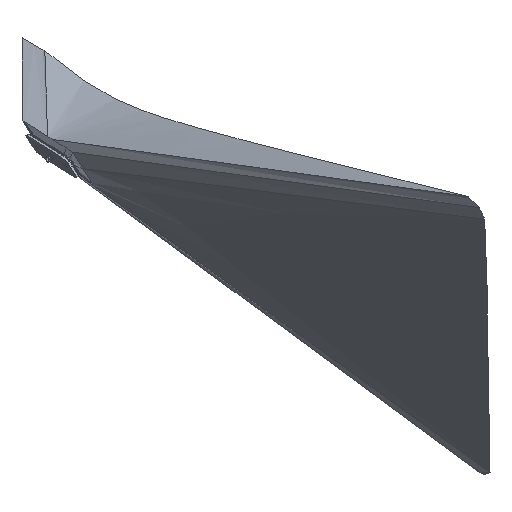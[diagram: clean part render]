
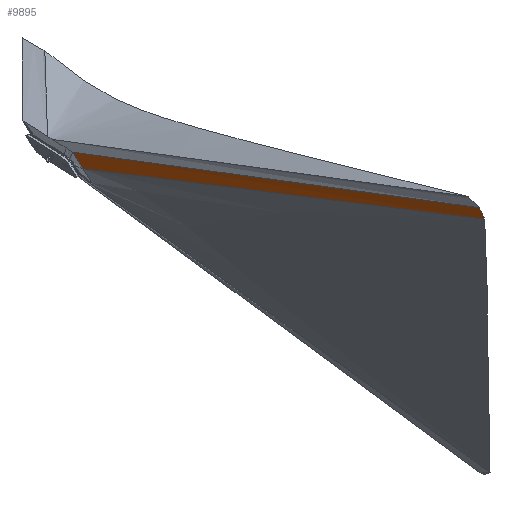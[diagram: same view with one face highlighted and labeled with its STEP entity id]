
A CAD part, isometric view. The second image highlights one B-rep face of the part: STEP entity #9895.
In plain terms, the highlighted free-form (B-spline) face has degree [5, 1] with [9, 2] control points.
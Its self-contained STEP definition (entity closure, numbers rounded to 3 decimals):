
#49=CARTESIAN_POINT('Vertex',(25.,-59.31,31.861)) ;
#133=CARTESIAN_POINT('Control Point',(25.,-59.31,31.861)) ;
#134=CARTESIAN_POINT('Control Point',(224.,-1450.585,439.828)) ;
#135=CARTESIAN_POINT('Vertex',(224.,-1450.585,439.828)) ;
#9077=CARTESIAN_POINT('Control Point',(25.,-98.787,-4.313)) ;
#9078=CARTESIAN_POINT('Control Point',(224.,-1471.471,411.236)) ;
#9079=CARTESIAN_POINT('Vertex',(25.,-98.787,-4.313)) ;
#9081=CARTESIAN_POINT('Vertex',(224.,-1471.471,411.236)) ;
#9834=CARTESIAN_POINT('Control Point',(25.,-59.31,31.861)) ;
#9835=CARTESIAN_POINT('Control Point',(445.798,-3001.249,894.533)) ;
#9836=CARTESIAN_POINT('Control Point',(25.,-63.537,27.987)) ;
#9837=CARTESIAN_POINT('Control Point',(445.883,-3001.85,892.477)) ;
#9838=CARTESIAN_POINT('Control Point',(25.,-67.765,24.113)) ;
#9839=CARTESIAN_POINT('Control Point',(445.967,-3002.45,890.42)) ;
#9840=CARTESIAN_POINT('Control Point',(25.,-71.924,20.303)) ;
#9841=CARTESIAN_POINT('Control Point',(446.035,-3002.933,888.754)) ;
#9842=CARTESIAN_POINT('Control Point',(25.,-80.81,12.16)) ;
#9843=CARTESIAN_POINT('Control Point',(446.159,-3003.818,885.7)) ;
#9844=CARTESIAN_POINT('Control Point',(25.,-89.043,4.615)) ;
#9845=CARTESIAN_POINT('Control Point',(446.266,-3004.578,883.067)) ;
#9846=CARTESIAN_POINT('Control Point',(25.,-92.541,1.41)) ;
#9847=CARTESIAN_POINT('Control Point',(446.309,-3004.882,882.003)) ;
#9848=CARTESIAN_POINT('Control Point',(25.,-95.897,-1.665)) ;
#9849=CARTESIAN_POINT('Control Point',(446.385,-3005.423,880.137)) ;
#9850=CARTESIAN_POINT('Control Point',(25.,-98.787,-4.313)) ;
#9851=CARTESIAN_POINT('Control Point',(446.552,-3006.615,875.966)) ;
#9853=CARTESIAN_POINT('Control Point',(25.,-59.31,31.861)) ;
#9854=CARTESIAN_POINT('Control Point',(25.,-63.537,27.987)) ;
#9855=CARTESIAN_POINT('Control Point',(25.,-67.765,24.113)) ;
#9856=CARTESIAN_POINT('Control Point',(25.,-71.924,20.303)) ;
#9857=CARTESIAN_POINT('Control Point',(25.,-80.81,12.16)) ;
#9858=CARTESIAN_POINT('Control Point',(25.,-89.043,4.615)) ;
#9859=CARTESIAN_POINT('Control Point',(25.,-92.541,1.41)) ;
#9860=CARTESIAN_POINT('Control Point',(25.,-95.897,-1.665)) ;
#9861=CARTESIAN_POINT('Control Point',(25.,-98.787,-4.313)) ;
#9864=CARTESIAN_POINT('Control Point',(224.,-1471.471,411.236)) ;
#9865=CARTESIAN_POINT('Control Point',(224.,-1470.65,413.114)) ;
#9866=CARTESIAN_POINT('Control Point',(224.,-1469.72,414.821)) ;
#9867=CARTESIAN_POINT('Control Point',(224.,-1468.705,416.36)) ;
#9868=CARTESIAN_POINT('Control Point',(224.,-1467.246,418.346)) ;
#9869=CARTESIAN_POINT('Control Point',(224.,-1465.694,420.308)) ;
#9870=CARTESIAN_POINT('Control Point',(224.,-1465.282,420.822)) ;
#9871=CARTESIAN_POINT('Control Point',(224.,-1464.443,421.863)) ;
#9872=CARTESIAN_POINT('Control Point',(224.,-1463.586,422.918)) ;
#9873=CARTESIAN_POINT('Control Point',(224.,-1463.15,423.455)) ;
#9874=CARTESIAN_POINT('Control Point',(224.,-1462.487,424.271)) ;
#9875=CARTESIAN_POINT('Control Point',(224.,-1461.82,425.096)) ;
#9876=CARTESIAN_POINT('Control Point',(224.,-1461.593,425.377)) ;
#9877=CARTESIAN_POINT('Control Point',(224.,-1460.568,426.646)) ;
#9878=CARTESIAN_POINT('Control Point',(224.,-1459.541,427.927)) ;
#9879=CARTESIAN_POINT('Control Point',(224.,-1458.746,428.929)) ;
#9880=CARTESIAN_POINT('Control Point',(224.,-1457.17,430.937)) ;
#9881=CARTESIAN_POINT('Control Point',(224.,-1455.621,432.963)) ;
#9882=CARTESIAN_POINT('Control Point',(224.,-1454.854,433.983)) ;
#9883=CARTESIAN_POINT('Control Point',(224.,-1453.537,435.757)) ;
#9884=CARTESIAN_POINT('Control Point',(224.,-1452.229,437.551)) ;
#9885=CARTESIAN_POINT('Control Point',(224.,-1451.681,438.309)) ;
#9886=CARTESIAN_POINT('Control Point',(224.,-1451.133,439.068)) ;
#9887=CARTESIAN_POINT('Control Point',(224.,-1450.585,439.828)) ;
#9890=ORIENTED_EDGE('',*,*,#137,.F.) ;
#9891=ORIENTED_EDGE('',*,*,#9862,.T.) ;
#9892=ORIENTED_EDGE('',*,*,#9083,.T.) ;
#9893=ORIENTED_EDGE('',*,*,#9888,.T.) ;
#9895=ADVANCED_FACE('Surface.2',(#9894),#9833,.T.) ;
#132=B_SPLINE_CURVE_WITH_KNOTS('',1,(#133,#134),.UNSPECIFIED.,.F.,.U.,(2,2),(0.,1485.925),.UNSPECIFIED.) ;
#9076=B_SPLINE_CURVE_WITH_KNOTS('',1,(#9077,#9078),.UNSPECIFIED.,.F.,.U.,(2,2),(0.,1483.267),.UNSPECIFIED.) ;
#9852=B_SPLINE_CURVE_WITH_KNOTS('',5,(#9853,#9854,#9855,#9856,#9857,#9858,#9859,#9860,#9861),.UNSPECIFIED.,.F.,.U.,(6,3,6),(0.,21.642,42.324),.UNSPECIFIED.) ;
#9863=B_SPLINE_CURVE_WITH_KNOTS('',5,(#9864,#9865,#9866,#9867,#9868,#9869,#9870,#9871,#9872,#9873,#9874,#9875,#9876,#9877,#9878,#9879,#9880,#9881,#9882,#9883,#9884,#9885,#9886,#9887),.UNSPECIFIED.,.F.,.U.,(6,3,3,3,3,3,3,6),(0.,15.112,20.457,25.889,28.657,38.444,48.231,55.32),.UNSPECIFIED.) ;
#9833=B_SPLINE_SURFACE_WITH_KNOTS('',5,1,((#9834,#9835),(#9836,#9837),(#9838,#9839),(#9840,#9841),(#9842,#9843),(#9844,#9845),(#9846,#9847),(#9848,#9849),(#9850,#9851)),.UNSPECIFIED.,.F.,.F.,.U.,(6,3,6),(2,2),(0.,21.642,42.324),(0.,3142.083),.UNSPECIFIED.) ;
#137=EDGE_CURVE('',#50,#136,#132,.T.) ;
#9083=EDGE_CURVE('',#9080,#9082,#9076,.T.) ;
#9862=EDGE_CURVE('',#50,#9080,#9852,.T.) ;
#9888=EDGE_CURVE('',#9082,#136,#9863,.T.) ;
#9889=EDGE_LOOP('',(#9890,#9891,#9892,#9893)) ;
#9894=FACE_OUTER_BOUND('',#9889,.T.) ;
#50=VERTEX_POINT('',#49) ;
#136=VERTEX_POINT('',#135) ;
#9080=VERTEX_POINT('',#9079) ;
#9082=VERTEX_POINT('',#9081) ;
